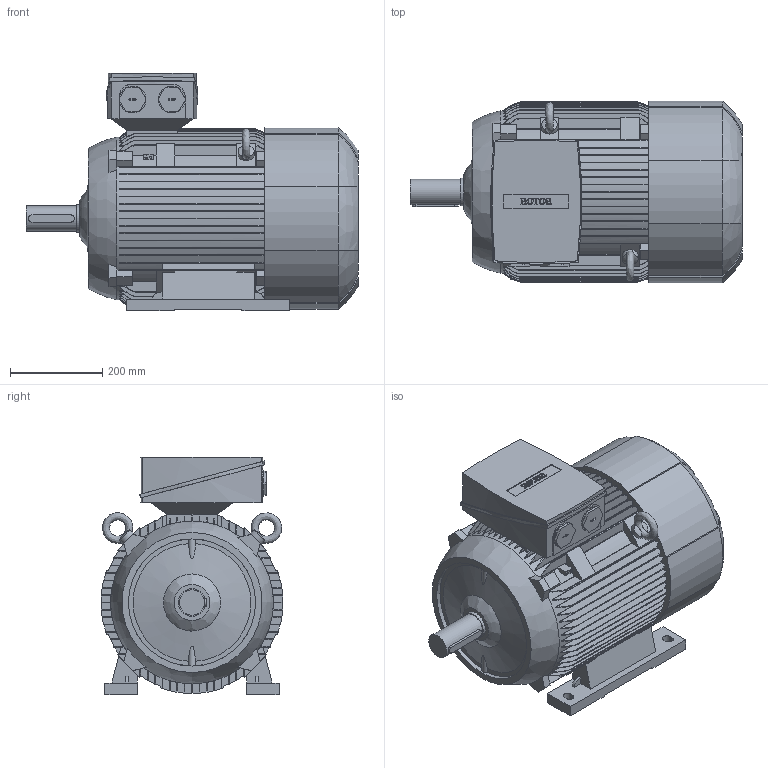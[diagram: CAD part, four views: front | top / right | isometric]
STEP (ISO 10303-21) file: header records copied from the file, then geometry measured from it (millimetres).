
FILE_DESCRIPTION (( 'STEP AP214' ), '1' );
FILE_NAME ('6RN200L06E15 IM1001.STEP', '2016-02-11T13:20:19', ( 'rotor' ), ( 'Hewlett-Packard Company' ), 'SwSTEP 2.0', 'SolidWorks 2012', '' );
FILE_SCHEMA (( 'AUTOMOTIVE_DESIGN' ));
Length unit declared in the file: millimetre
Products named in the file (1): 6RN200L06E15 IM1001
Bounding box: 721 x 395 x 515 mm (x, y, z)
Volume: 69553013.5 mm3; surface area: 1970429.4 mm2
Topology: 1 solids, 1 shells, 803 faces, 2296 edges, 1525 vertices
Faces by surface type: plane 471, bspline 204, cylinder 123, cone 5
Full cylindrical faces by diameter (mm): 5 x1, 35 x2, 55 x1, 58 x2, 60 x1, 276 x1
Entity records: 42673 total; most frequent: CARTESIAN_POINT 15692, ORIENTED_EDGE 4544, DIRECTION 3291, EDGE_CURVE 2272, VERTEX_POINT 1514, VECTOR 1337, LINE 1337, AXIS2_PLACEMENT_3D 977
